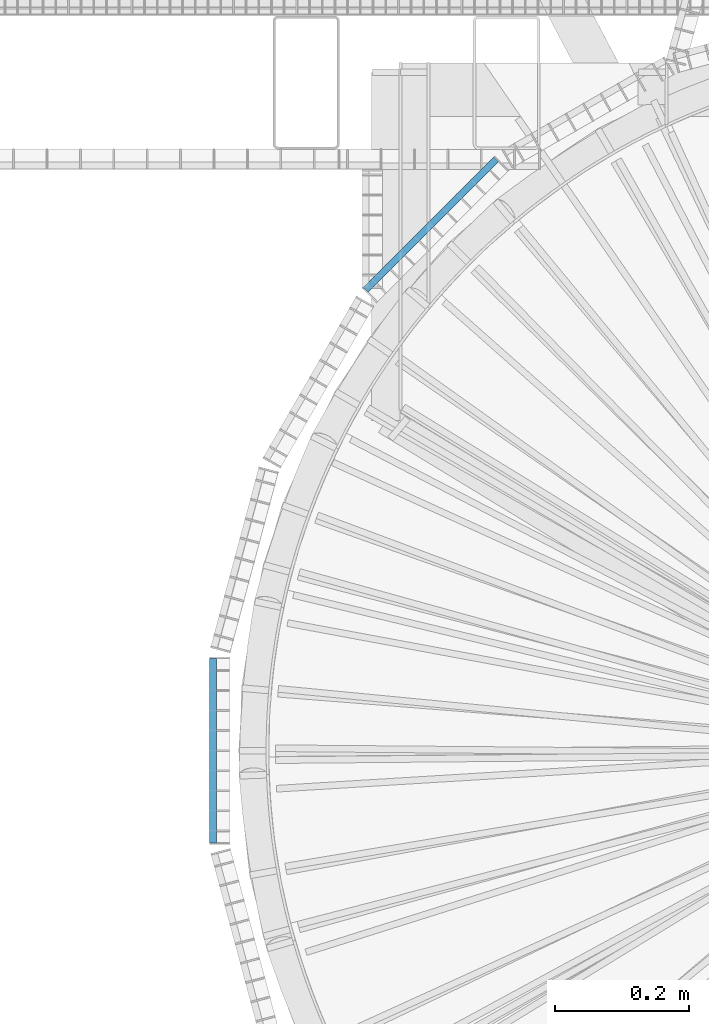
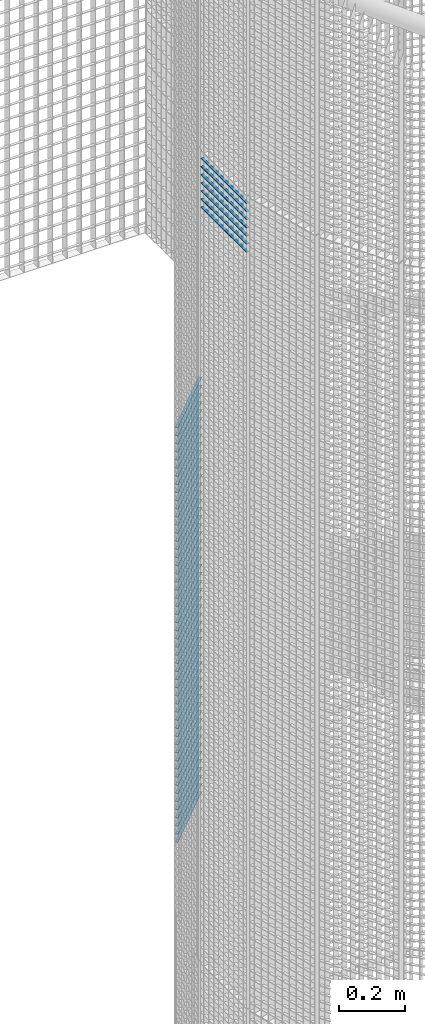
# One storey, part 210 of 1183: 59 beams, 2 elements without a shape of their own.
"""IFC2X3 building model written with IfcOpenShell, lengths in millimetres."""

import ifcopenshell
import ifcopenshell.guid

model = None  # the IFC model being written
_history = None  # IfcOwnerHistory: only IFC2X3 demands one
_inside = {}  # id of a spatial element -> (the spatial element, [elements in it])
_under = {}  # id of a project, library or spatial element -> (it, [spatial elements below it])
_declared = {}  # id of a project -> (the project, [libraries it declares])
_typed = {}  # id of a type object -> (the type object, [elements of that type])
_made_of = {}  # id of a material, layer set ... -> (it, [elements and type objects made of it])


def new_model(schema):
    """Start an empty IFC model of exactly this schema.

    Asked for "IFC4X3", IfcOpenShell would pick the latest addendum, in which some entities
    have other attributes; the version numbers below select the first issue.
    IFC2X3 requires an IfcOwnerHistory on every rooted entity: one is made here for all.
    """
    global model, _history
    if schema == "IFC4X3":
        model = ifcopenshell.file(schema_version=(4, 3, 0, 0))
    else:
        model = ifcopenshell.file(schema=schema)
    _inside.clear()
    _under.clear()
    _declared.clear()
    _typed.clear()
    _made_of.clear()
    _history = None
    if model.schema == "IFC2X3":
        org = make("IfcOrganization", Name="unknown")
        user = make(
            "IfcPersonAndOrganization",
            ThePerson=make("IfcPerson", FamilyName="unknown"),
            TheOrganization=org,
        )
        app = make(
            "IfcApplication",
            ApplicationDeveloper=org,
            Version="unknown",
            ApplicationFullName="unknown",
            ApplicationIdentifier="unknown",
        )
        _history = make(
            "IfcOwnerHistory",
            OwningUser=user,
            OwningApplication=app,
            ChangeAction="ADDED",
            CreationDate=0,
        )
    return model


def make(cls, **values):
    """One entity of the class cls with the attributes given. An attribute that is None is left unset."""
    return model.create_entity(
        cls, **{name: value for name, value in values.items() if value is not None}
    )


def rooted(cls, **values):
    """An entity with a GlobalId (a new one), such as an element, a storey or a relation."""
    return make(cls, GlobalId=ifcopenshell.guid.new(), OwnerHistory=_history, **values)


def si_unit(unit_type, name, prefix=None):
    """IfcSIUnit, for example si_unit("LENGTHUNIT", "METRE", prefix="MILLI")."""
    return make("IfcSIUnit", UnitType=unit_type, Prefix=prefix, Name=name)


def assignment(units):
    """IfcUnitAssignment: the units of a project."""
    return None if units is None else make("IfcUnitAssignment", Units=units)


def point(xyz):
    """IfcCartesianPoint."""
    return None if xyz is None else make("IfcCartesianPoint", Coordinates=xyz)


def direction(xyz):
    """IfcDirection."""
    return None if xyz is None else make("IfcDirection", DirectionRatios=xyz)


def frame(location, z_axis=None, x_axis=None):
    """IfcAxis2Placement3D, a coordinate frame: its origin and axes. An axis left out is left unset."""
    return make(
        "IfcAxis2Placement3D",
        Location=point(location),
        Axis=direction(z_axis),
        RefDirection=direction(x_axis),
    )


def frame_2d(location, x_axis=None):
    """IfcAxis2Placement2D, a coordinate frame in the plane: its origin and x axis."""
    return make(
        "IfcAxis2Placement2D", Location=point(location), RefDirection=direction(x_axis)
    )


def origin_with_axes():
    """The frame at (0, 0, 0) with the z axis (0, 0, 1) and the x axis (1, 0, 0) written out."""
    return frame((0.0, 0.0, 0.0), z_axis=(0.0, 0.0, 1.0), x_axis=(1.0, 0.0, 0.0))


def origin_2d_with_axis():
    """The frame at (0, 0) in the plane with the x axis (1, 0) written out."""
    return frame_2d((0.0, 0.0), x_axis=(1.0, 0.0))


def place(relative_to, where):
    """IfcLocalPlacement: puts the frame where relative to a parent placement (None: the world)."""
    return make(
        "IfcLocalPlacement", PlacementRelTo=relative_to, RelativePlacement=where
    )


def context(
    kind, dimensions, precision=None, world=None, true_north=None, identifier=None
):
    """IfcGeometricRepresentationContext, for example the 3D "Model" context."""
    return make(
        "IfcGeometricRepresentationContext",
        ContextIdentifier=identifier,
        ContextType=kind,
        CoordinateSpaceDimension=dimensions,
        Precision=precision,
        WorldCoordinateSystem=world,
        TrueNorth=true_north,
    )


def subcontext(parent, identifier, kind, view, scale=None):
    """IfcGeometricRepresentationSubContext, for example "Body" below "Model"."""
    return make(
        "IfcGeometricRepresentationSubContext",
        ContextIdentifier=identifier,
        ContextType=kind,
        ParentContext=parent,
        TargetScale=scale,
        TargetView=view,
    )


def project(units=None, contexts=None):
    """IfcProject with its units and contexts."""
    return rooted(
        "IfcProject",
        Name="project",
        RepresentationContexts=contexts,
        UnitsInContext=assignment(units),
    )


def spatial(cls, under=None, at=None, **own):
    """A site, building, storey or space (cls), placed at a placement, below another one or the project."""
    s = rooted(cls, ObjectPlacement=at, **own)
    if under is not None:
        _under.setdefault(under.id(), (under, []))[1].append(s)
    return s


def profile(cls, at=None, kind="AREA", **sizes):
    """A parametric profile (cls). Its sizes go by their IFC names, for example OverallWidth=200.0."""
    return make(cls, ProfileType=kind, Position=at, **sizes)


def rectangle(**sizes):
    """IfcRectangleProfileDef."""
    return profile("IfcRectangleProfileDef", **sizes)


def extrude(swept, where, along, depth):
    """IfcExtrudedAreaSolid: the profile swept, set in the frame where, extruded along a direction by depth."""
    return make(
        "IfcExtrudedAreaSolid",
        SweptArea=swept,
        Position=where,
        ExtrudedDirection=direction(along),
        Depth=depth,
    )


def shape(context_of_items, identifier, shape_type, items):
    """IfcShapeRepresentation: the items that make up one representation, for example the "Body"."""
    return make(
        "IfcShapeRepresentation",
        ContextOfItems=context_of_items,
        RepresentationIdentifier=identifier,
        RepresentationType=shape_type,
        Items=items,
    )


def material(Name=None, Category=None):
    """IfcMaterial."""
    return make("IfcMaterial", Name=Name, Category=Category)


def made_of(thing, what):
    """Note that an element or type object is made of a material, layer set ...; save() writes the relation."""
    if what is not None:
        _made_of.setdefault(what.id(), (what, []))[1].append(thing)
    return thing


def type_object(cls, material=None, **own):
    """A type object (cls), such as IfcWallType, which elements share."""
    return made_of(rooted(cls, **own), material)


def element(
    cls,
    number,
    at=None,
    inside=None,
    cuts=None,
    type_object=None,
    material=None,
    context=None,
    identifier="Body",
    shape_type=None,
    held_by="IfcProductDefinitionShape",
    body=None,
    shapes=None,
    **own,
):
    """One element of the class cls, such as IfcWall. Its Tag is "e" and its number.

    at: its placement. inside: the storey or other place that contains it. cuts: it is an
    opening in that element (IfcRelVoidsElement). A single representation is given by context,
    identifier, shape_type and body (its items); several are given by shapes. held_by: the class
    of the entity that holds the representations. save() writes the other relations.
    """
    e = rooted(cls, Tag="e%d" % number, ObjectPlacement=at, **own)
    if body is not None:
        shapes = [shape(context, identifier, shape_type, body)]
    if shapes is not None:
        e.Representation = make(held_by, Representations=shapes)
    if inside is not None:
        _inside.setdefault(inside.id(), (inside, []))[1].append(e)
    if cuts is not None:
        rooted(
            "IfcRelVoidsElement", RelatingBuildingElement=cuts, RelatedOpeningElement=e
        )
    if type_object is not None:
        _typed.setdefault(type_object.id(), (type_object, []))[1].append(e)
    return made_of(e, material)


def aggregate(whole, parts):
    """IfcRelAggregates: a whole, such as a stair, and the parts it consists of."""
    return rooted("IfcRelAggregates", RelatingObject=whole, RelatedObjects=parts)


def save(model, path):
    """Write the relations noted so far, then the file.

    IfcRelAggregates (storeys below a building ...), IfcRelContainedInSpatialStructure (elements
    in a storey), IfcRelDefinesByType, IfcRelAssociatesMaterial and IfcRelDeclares: one each for
    every whole, place, type object, material and project.
    """
    for whole, parts in _under.values():
        aggregate(whole, parts)
    for where, things in _inside.values():
        rooted(
            "IfcRelContainedInSpatialStructure",
            RelatedElements=things,
            RelatingStructure=where,
        )
    for kind, things in _typed.values():
        rooted("IfcRelDefinesByType", RelatedObjects=things, RelatingType=kind)
    for what, things in _made_of.values():
        rooted("IfcRelAssociatesMaterial", RelatedObjects=things, RelatingMaterial=what)
    for by, libraries in _declared.values():
        rooted("IfcRelDeclares", RelatingContext=by, RelatedDefinitions=libraries)
    model.write(path)


model = new_model("IFC2X3")

# Units and contexts
model_context = context("Model", 3, precision=1e-05, world=origin_with_axes())
body_context = subcontext(model_context, "Body", "Model", "MODEL_VIEW")
ifc_project = project(units=[si_unit("LENGTHUNIT", "METRE", prefix="MILLI"), si_unit("AREAUNIT", "SQUARE_METRE"), si_unit("VOLUMEUNIT", "CUBIC_METRE"), si_unit("MASSUNIT", "GRAM", prefix="KILO"), si_unit("TIMEUNIT", "SECOND"), si_unit("PLANEANGLEUNIT", "RADIAN"), si_unit("SOLIDANGLEUNIT", "STERADIAN"), si_unit("THERMODYNAMICTEMPERATUREUNIT", "DEGREE_CELSIUS"), si_unit("LUMINOUSINTENSITYUNIT", "LUMEN")], contexts=[model_context])

# Site, building, storey
site_placement = place(None, origin_with_axes())
site = spatial("IfcSite", under=ifc_project, at=site_placement, Name="Undefined", CompositionType="ELEMENT")
building_placement = place(site_placement, origin_with_axes())
building = spatial("IfcBuilding", under=site, at=building_placement, Name="Undefined", CompositionType="ELEMENT")
storey_placement = place(building_placement, origin_with_axes())
storey = spatial("IfcBuildingStorey", under=building, at=storey_placement, Name="Undefined", CompositionType="ELEMENT", Elevation=0.0)

# Assembly, beams
assembly_1_placement = place(storey_placement, origin_with_axes())
assembly_1 = element("IfcElementAssembly", 1, at=assembly_1_placement, inside=storey, Name="BORDURE", AssemblyPlace="NOTDEFINED", PredefinedType="NOTDEFINED")
ifc_material = material(Name="STEEL/S235JR")
beam_type = type_object("IfcBeamType", Name="PL2*10", PredefinedType="NOTDEFINED")
beam_1_placement = place(assembly_1_placement, frame((-689.771348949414, 884.927168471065, 4560.0), z_axis=(-0.707106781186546, 0.707106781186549, 0.0), x_axis=(-0.70710678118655, -0.707106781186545, 0.0)))
beam_1 = element("IfcBeam", 2, at=beam_1_placement, type_object=beam_type, material=ifc_material, Name="ENTRETOISE", context=body_context, shape_type="SweptSolid", body=[
    extrude(rectangle(XDim=2.0, YDim=10.0, at=origin_2d_with_axis()), frame((275.999999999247, 9.09494701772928e-13, 1.53210777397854e-14), z_axis=(-1.0, 0.0, 0.0), x_axis=(0.0, -1.0, 0.0)), (0.0, 0.0, 1.0), 276.0),
])
beam_2_placement = place(assembly_1_placement, frame((-689.771348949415, 884.927168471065, 4530.0), z_axis=(-0.707106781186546, 0.707106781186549, 0.0), x_axis=(-0.70710678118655, -0.707106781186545, 0.0)))
beam_2 = element("IfcBeam", 3, at=beam_2_placement, type_object=beam_type, material=ifc_material, Name="ENTRETOISE", context=body_context, shape_type="SweptSolid", body=[
    extrude(rectangle(XDim=2.0, YDim=10.0, at=origin_2d_with_axis()), frame((275.999999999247, 9.09494701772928e-13, 1.53210777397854e-14), z_axis=(-1.0, 0.0, 0.0), x_axis=(0.0, -1.0, 0.0)), (0.0, 0.0, 1.0), 276.0),
])
beam_3_placement = place(assembly_1_placement, frame((-689.771348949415, 884.927168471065, 4500.0), z_axis=(-0.707106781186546, 0.707106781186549, 0.0), x_axis=(-0.70710678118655, -0.707106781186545, 0.0)))
beam_3 = element("IfcBeam", 4, at=beam_3_placement, type_object=beam_type, material=ifc_material, Name="ENTRETOISE", context=body_context, shape_type="SweptSolid", body=[
    extrude(rectangle(XDim=2.0, YDim=10.0, at=origin_2d_with_axis()), frame((275.999999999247, 9.09494701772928e-13, 1.53210777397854e-14), z_axis=(-1.0, 0.0, 0.0), x_axis=(0.0, -1.0, 0.0)), (0.0, 0.0, 1.0), 276.0),
])
beam_4_placement = place(assembly_1_placement, frame((-689.771348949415, 884.927168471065, 4470.0), z_axis=(-0.707106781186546, 0.707106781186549, 0.0), x_axis=(-0.70710678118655, -0.707106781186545, 0.0)))
beam_4 = element("IfcBeam", 5, at=beam_4_placement, type_object=beam_type, material=ifc_material, Name="ENTRETOISE", context=body_context, shape_type="SweptSolid", body=[
    extrude(rectangle(XDim=2.0, YDim=10.0, at=origin_2d_with_axis()), frame((275.999999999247, 9.09494701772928e-13, 1.53210777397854e-14), z_axis=(-1.0, 0.0, 0.0), x_axis=(0.0, -1.0, 0.0)), (0.0, 0.0, 1.0), 276.0),
])
beam_5_placement = place(assembly_1_placement, frame((-689.771348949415, 884.927168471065, 4440.0), z_axis=(-0.707106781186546, 0.707106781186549, 0.0), x_axis=(-0.70710678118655, -0.707106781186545, 0.0)))
beam_5 = element("IfcBeam", 6, at=beam_5_placement, type_object=beam_type, material=ifc_material, Name="ENTRETOISE", context=body_context, shape_type="SweptSolid", body=[
    extrude(rectangle(XDim=2.0, YDim=10.0, at=origin_2d_with_axis()), frame((275.999999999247, 9.09494701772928e-13, 1.53210777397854e-14), z_axis=(-1.0, 0.0, 0.0), x_axis=(0.0, -1.0, 0.0)), (0.0, 0.0, 1.0), 276.0),
])
beam_6_placement = place(assembly_1_placement, frame((-689.771348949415, 884.927168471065, 4410.0), z_axis=(-0.707106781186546, 0.707106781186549, 0.0), x_axis=(-0.70710678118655, -0.707106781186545, 0.0)))
beam_6 = element("IfcBeam", 7, at=beam_6_placement, type_object=beam_type, material=ifc_material, Name="ENTRETOISE", context=body_context, shape_type="SweptSolid", body=[
    extrude(rectangle(XDim=2.0, YDim=10.0, at=origin_2d_with_axis()), frame((275.999999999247, 9.09494701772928e-13, 1.53210777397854e-14), z_axis=(-1.0, 0.0, 0.0), x_axis=(0.0, -1.0, 0.0)), (0.0, 0.0, 1.0), 276.0),
])
beam_7_placement = place(assembly_1_placement, frame((-689.771348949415, 884.927168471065, 4380.0), z_axis=(-0.707106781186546, 0.707106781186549, 0.0), x_axis=(-0.70710678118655, -0.707106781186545, 0.0)))
beam_7 = element("IfcBeam", 8, at=beam_7_placement, type_object=beam_type, material=ifc_material, Name="ENTRETOISE", context=body_context, shape_type="SweptSolid", body=[
    extrude(rectangle(XDim=2.0, YDim=10.0, at=origin_2d_with_axis()), frame((275.999999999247, 9.09494701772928e-13, 1.53210777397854e-14), z_axis=(-1.0, 0.0, 0.0), x_axis=(0.0, -1.0, 0.0)), (0.0, 0.0, 1.0), 276.0),
])
beam_8_placement = place(assembly_1_placement, frame((-689.771348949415, 884.927168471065, 4350.0), z_axis=(-0.707106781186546, 0.707106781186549, 0.0), x_axis=(-0.70710678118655, -0.707106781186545, 0.0)))
beam_8 = element("IfcBeam", 9, at=beam_8_placement, type_object=beam_type, material=ifc_material, Name="ENTRETOISE", context=body_context, shape_type="SweptSolid", body=[
    extrude(rectangle(XDim=2.0, YDim=10.0, at=origin_2d_with_axis()), frame((275.999999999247, 9.09494701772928e-13, 1.53210777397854e-14), z_axis=(-1.0, 0.0, 0.0), x_axis=(0.0, -1.0, 0.0)), (0.0, 0.0, 1.0), 276.0),
])
beam_9_placement = place(assembly_1_placement, frame((-689.771348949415, 884.927168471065, 4320.0), z_axis=(-0.707106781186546, 0.707106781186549, 0.0), x_axis=(-0.70710678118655, -0.707106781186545, 0.0)))
beam_9 = element("IfcBeam", 10, at=beam_9_placement, type_object=beam_type, material=ifc_material, Name="ENTRETOISE", context=body_context, shape_type="SweptSolid", body=[
    extrude(rectangle(XDim=2.0, YDim=10.0, at=origin_2d_with_axis()), frame((275.999999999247, 9.09494701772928e-13, 1.53210777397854e-14), z_axis=(-1.0, 0.0, 0.0), x_axis=(0.0, -1.0, 0.0)), (0.0, 0.0, 1.0), 276.0),
])
beam_10_placement = place(assembly_1_placement, frame((-689.771348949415, 884.927168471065, 4290.0), z_axis=(-0.707106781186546, 0.707106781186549, 0.0), x_axis=(-0.70710678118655, -0.707106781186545, 0.0)))
beam_10 = element("IfcBeam", 11, at=beam_10_placement, type_object=beam_type, material=ifc_material, Name="ENTRETOISE", context=body_context, shape_type="SweptSolid", body=[
    extrude(rectangle(XDim=2.0, YDim=10.0, at=origin_2d_with_axis()), frame((275.999999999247, 9.09494701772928e-13, 1.53210777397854e-14), z_axis=(-1.0, 0.0, 0.0), x_axis=(0.0, -1.0, 0.0)), (0.0, 0.0, 1.0), 276.0),
])
beam_11_placement = place(assembly_1_placement, frame((-689.771348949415, 884.927168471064, 4260.0), z_axis=(-0.707106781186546, 0.707106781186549, 0.0), x_axis=(-0.70710678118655, -0.707106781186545, 0.0)))
beam_11 = element("IfcBeam", 12, at=beam_11_placement, type_object=beam_type, material=ifc_material, Name="ENTRETOISE", context=body_context, shape_type="SweptSolid", body=[
    extrude(rectangle(XDim=2.0, YDim=10.0, at=origin_2d_with_axis()), frame((275.999999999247, 9.09494701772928e-13, 1.53210777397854e-14), z_axis=(-1.0, 0.0, 0.0), x_axis=(0.0, -1.0, 0.0)), (0.0, 0.0, 1.0), 276.0),
])
beam_12_placement = place(assembly_1_placement, frame((-689.771348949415, 884.927168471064, 4230.0), z_axis=(-0.707106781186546, 0.707106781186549, 0.0), x_axis=(-0.70710678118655, -0.707106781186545, 0.0)))
beam_12 = element("IfcBeam", 13, at=beam_12_placement, type_object=beam_type, material=ifc_material, Name="ENTRETOISE", context=body_context, shape_type="SweptSolid", body=[
    extrude(rectangle(XDim=2.0, YDim=10.0, at=origin_2d_with_axis()), frame((275.999999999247, 9.09494701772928e-13, 1.53210777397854e-14), z_axis=(-1.0, 0.0, 0.0), x_axis=(0.0, -1.0, 0.0)), (0.0, 0.0, 1.0), 276.0),
])
beam_13_placement = place(assembly_1_placement, frame((-689.771348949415, 884.927168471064, 4200.0), z_axis=(-0.707106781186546, 0.707106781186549, 0.0), x_axis=(-0.70710678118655, -0.707106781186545, 0.0)))
beam_13 = element("IfcBeam", 14, at=beam_13_placement, type_object=beam_type, material=ifc_material, Name="ENTRETOISE", context=body_context, shape_type="SweptSolid", body=[
    extrude(rectangle(XDim=2.0, YDim=10.0, at=origin_2d_with_axis()), frame((275.999999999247, 9.09494701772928e-13, 1.53210777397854e-14), z_axis=(-1.0, 0.0, 0.0), x_axis=(0.0, -1.0, 0.0)), (0.0, 0.0, 1.0), 276.0),
])
beam_14_placement = place(assembly_1_placement, frame((-689.771348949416, 884.927168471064, 4170.0), z_axis=(-0.707106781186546, 0.707106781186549, 0.0), x_axis=(-0.70710678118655, -0.707106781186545, 0.0)))
beam_14 = element("IfcBeam", 15, at=beam_14_placement, type_object=beam_type, material=ifc_material, Name="ENTRETOISE", context=body_context, shape_type="SweptSolid", body=[
    extrude(rectangle(XDim=2.0, YDim=10.0, at=origin_2d_with_axis()), frame((275.999999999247, 9.09494701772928e-13, 1.53210777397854e-14), z_axis=(-1.0, 0.0, 0.0), x_axis=(0.0, -1.0, 0.0)), (0.0, 0.0, 1.0), 276.0),
])
beam_15_placement = place(assembly_1_placement, frame((-689.771348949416, 884.927168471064, 4140.0), z_axis=(-0.707106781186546, 0.707106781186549, 0.0), x_axis=(-0.70710678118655, -0.707106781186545, 0.0)))
beam_15 = element("IfcBeam", 16, at=beam_15_placement, type_object=beam_type, material=ifc_material, Name="ENTRETOISE", context=body_context, shape_type="SweptSolid", body=[
    extrude(rectangle(XDim=2.0, YDim=10.0, at=origin_2d_with_axis()), frame((275.999999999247, 9.09494701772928e-13, 1.53210777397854e-14), z_axis=(-1.0, 0.0, 0.0), x_axis=(0.0, -1.0, 0.0)), (0.0, 0.0, 1.0), 276.0),
])
beam_16_placement = place(assembly_1_placement, frame((-689.771348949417, 884.927168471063, 3720.0), z_axis=(-0.707106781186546, 0.707106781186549, 0.0), x_axis=(-0.70710678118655, -0.707106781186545, 0.0)))
beam_16 = element("IfcBeam", 17, at=beam_16_placement, type_object=beam_type, material=ifc_material, Name="ENTRETOISE", context=body_context, shape_type="SweptSolid", body=[
    extrude(rectangle(XDim=2.0, YDim=10.0, at=origin_2d_with_axis()), frame((275.999999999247, 9.09494701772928e-13, 1.53210777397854e-14), z_axis=(-1.0, 0.0, 0.0), x_axis=(0.0, -1.0, 0.0)), (0.0, 0.0, 1.0), 276.0),
])
beam_17_placement = place(assembly_1_placement, frame((-689.771348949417, 884.927168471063, 3690.0), z_axis=(-0.707106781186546, 0.707106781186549, 0.0), x_axis=(-0.70710678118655, -0.707106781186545, 0.0)))
beam_17 = element("IfcBeam", 18, at=beam_17_placement, type_object=beam_type, material=ifc_material, Name="ENTRETOISE", context=body_context, shape_type="SweptSolid", body=[
    extrude(rectangle(XDim=2.0, YDim=10.0, at=origin_2d_with_axis()), frame((275.999999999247, 9.09494701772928e-13, 1.53210777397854e-14), z_axis=(-1.0, 0.0, 0.0), x_axis=(0.0, -1.0, 0.0)), (0.0, 0.0, 1.0), 276.0),
])
beam_18_placement = place(assembly_1_placement, frame((-689.771348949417, 884.927168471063, 3750.0), z_axis=(-0.707106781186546, 0.707106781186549, 0.0), x_axis=(-0.70710678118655, -0.707106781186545, 0.0)))
beam_18 = element("IfcBeam", 19, at=beam_18_placement, type_object=beam_type, material=ifc_material, Name="ENTRETOISE", context=body_context, shape_type="SweptSolid", body=[
    extrude(rectangle(XDim=2.0, YDim=10.0, at=origin_2d_with_axis()), frame((275.999999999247, 9.09494701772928e-13, 1.53210777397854e-14), z_axis=(-1.0, 0.0, 0.0), x_axis=(0.0, -1.0, 0.0)), (0.0, 0.0, 1.0), 276.0),
])
beam_19_placement = place(assembly_1_placement, frame((-689.771348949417, 884.927168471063, 3660.0), z_axis=(-0.707106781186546, 0.707106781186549, 0.0), x_axis=(-0.70710678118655, -0.707106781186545, 0.0)))
beam_19 = element("IfcBeam", 20, at=beam_19_placement, type_object=beam_type, material=ifc_material, Name="ENTRETOISE", context=body_context, shape_type="SweptSolid", body=[
    extrude(rectangle(XDim=2.0, YDim=10.0, at=origin_2d_with_axis()), frame((275.999999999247, 9.09494701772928e-13, 1.53210777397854e-14), z_axis=(-1.0, 0.0, 0.0), x_axis=(0.0, -1.0, 0.0)), (0.0, 0.0, 1.0), 276.0),
])
beam_20_placement = place(assembly_1_placement, frame((-689.771348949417, 884.927168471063, 3630.0), z_axis=(-0.707106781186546, 0.707106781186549, 0.0), x_axis=(-0.70710678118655, -0.707106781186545, 0.0)))
beam_20 = element("IfcBeam", 21, at=beam_20_placement, type_object=beam_type, material=ifc_material, Name="ENTRETOISE", context=body_context, shape_type="SweptSolid", body=[
    extrude(rectangle(XDim=2.0, YDim=10.0, at=origin_2d_with_axis()), frame((275.999999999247, 9.09494701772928e-13, 1.53210777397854e-14), z_axis=(-1.0, 0.0, 0.0), x_axis=(0.0, -1.0, 0.0)), (0.0, 0.0, 1.0), 276.0),
])
beam_21_placement = place(assembly_1_placement, frame((-689.771348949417, 884.927168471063, 3780.0), z_axis=(-0.707106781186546, 0.707106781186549, 0.0), x_axis=(-0.70710678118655, -0.707106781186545, 0.0)))
beam_21 = element("IfcBeam", 22, at=beam_21_placement, type_object=beam_type, material=ifc_material, Name="ENTRETOISE", context=body_context, shape_type="SweptSolid", body=[
    extrude(rectangle(XDim=2.0, YDim=10.0, at=origin_2d_with_axis()), frame((275.999999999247, 9.09494701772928e-13, 1.53210777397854e-14), z_axis=(-1.0, 0.0, 0.0), x_axis=(0.0, -1.0, 0.0)), (0.0, 0.0, 1.0), 276.0),
])
beam_22_placement = place(assembly_1_placement, frame((-689.771348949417, 884.927168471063, 3600.0), z_axis=(-0.707106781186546, 0.707106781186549, 0.0), x_axis=(-0.70710678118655, -0.707106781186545, 0.0)))
beam_22 = element("IfcBeam", 23, at=beam_22_placement, type_object=beam_type, material=ifc_material, Name="ENTRETOISE", context=body_context, shape_type="SweptSolid", body=[
    extrude(rectangle(XDim=2.0, YDim=10.0, at=origin_2d_with_axis()), frame((275.999999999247, 9.09494701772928e-13, 1.53210777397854e-14), z_axis=(-1.0, 0.0, 0.0), x_axis=(0.0, -1.0, 0.0)), (0.0, 0.0, 1.0), 276.0),
])
beam_23_placement = place(assembly_1_placement, frame((-689.771348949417, 884.927168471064, 3810.0), z_axis=(-0.707106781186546, 0.707106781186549, 0.0), x_axis=(-0.70710678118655, -0.707106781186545, 0.0)))
beam_23 = element("IfcBeam", 24, at=beam_23_placement, type_object=beam_type, material=ifc_material, Name="ENTRETOISE", context=body_context, shape_type="SweptSolid", body=[
    extrude(rectangle(XDim=2.0, YDim=10.0, at=origin_2d_with_axis()), frame((275.999999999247, 9.09494701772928e-13, 1.53210777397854e-14), z_axis=(-1.0, 0.0, 0.0), x_axis=(0.0, -1.0, 0.0)), (0.0, 0.0, 1.0), 276.0),
])
beam_24_placement = place(assembly_1_placement, frame((-689.771348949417, 884.927168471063, 3570.0), z_axis=(-0.707106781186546, 0.707106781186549, 0.0), x_axis=(-0.70710678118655, -0.707106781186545, 0.0)))
beam_24 = element("IfcBeam", 25, at=beam_24_placement, type_object=beam_type, material=ifc_material, Name="ENTRETOISE", context=body_context, shape_type="SweptSolid", body=[
    extrude(rectangle(XDim=2.0, YDim=10.0, at=origin_2d_with_axis()), frame((275.999999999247, 9.09494701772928e-13, 1.53210777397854e-14), z_axis=(-1.0, 0.0, 0.0), x_axis=(0.0, -1.0, 0.0)), (0.0, 0.0, 1.0), 276.0),
])
beam_25_placement = place(assembly_1_placement, frame((-689.771348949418, 884.927168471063, 3540.0), z_axis=(-0.707106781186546, 0.707106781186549, 0.0), x_axis=(-0.70710678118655, -0.707106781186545, 0.0)))
beam_25 = element("IfcBeam", 26, at=beam_25_placement, type_object=beam_type, material=ifc_material, Name="ENTRETOISE", context=body_context, shape_type="SweptSolid", body=[
    extrude(rectangle(XDim=2.0, YDim=10.0, at=origin_2d_with_axis()), frame((275.999999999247, 9.09494701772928e-13, 1.53210777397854e-14), z_axis=(-1.0, 0.0, 0.0), x_axis=(0.0, -1.0, 0.0)), (0.0, 0.0, 1.0), 276.0),
])
beam_26_placement = place(assembly_1_placement, frame((-689.771348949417, 884.927168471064, 3840.0), z_axis=(-0.707106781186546, 0.707106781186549, 0.0), x_axis=(-0.70710678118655, -0.707106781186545, 0.0)))
beam_26 = element("IfcBeam", 27, at=beam_26_placement, type_object=beam_type, material=ifc_material, Name="ENTRETOISE", context=body_context, shape_type="SweptSolid", body=[
    extrude(rectangle(XDim=2.0, YDim=10.0, at=origin_2d_with_axis()), frame((275.999999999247, 9.09494701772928e-13, 1.53210777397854e-14), z_axis=(-1.0, 0.0, 0.0), x_axis=(0.0, -1.0, 0.0)), (0.0, 0.0, 1.0), 276.0),
])
beam_27_placement = place(assembly_1_placement, frame((-689.771348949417, 884.927168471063, 3510.0), z_axis=(-0.707106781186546, 0.707106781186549, 0.0), x_axis=(-0.70710678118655, -0.707106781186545, 0.0)))
beam_27 = element("IfcBeam", 28, at=beam_27_placement, type_object=beam_type, material=ifc_material, Name="ENTRETOISE", context=body_context, shape_type="SweptSolid", body=[
    extrude(rectangle(XDim=2.0, YDim=10.0, at=origin_2d_with_axis()), frame((275.999999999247, 9.09494701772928e-13, 1.53210777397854e-14), z_axis=(-1.0, 0.0, 0.0), x_axis=(0.0, -1.0, 0.0)), (0.0, 0.0, 1.0), 276.0),
])
beam_28_placement = place(assembly_1_placement, frame((-689.771348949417, 884.927168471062, 3480.0), z_axis=(-0.707106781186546, 0.707106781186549, 0.0), x_axis=(-0.70710678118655, -0.707106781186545, 0.0)))
beam_28 = element("IfcBeam", 29, at=beam_28_placement, type_object=beam_type, material=ifc_material, Name="ENTRETOISE", context=body_context, shape_type="SweptSolid", body=[
    extrude(rectangle(XDim=2.0, YDim=10.0, at=origin_2d_with_axis()), frame((275.999999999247, 9.09494701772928e-13, 1.53210777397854e-14), z_axis=(-1.0, 0.0, 0.0), x_axis=(0.0, -1.0, 0.0)), (0.0, 0.0, 1.0), 276.0),
])
beam_29_placement = place(assembly_1_placement, frame((-689.771348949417, 884.927168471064, 3870.0), z_axis=(-0.707106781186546, 0.707106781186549, 0.0), x_axis=(-0.70710678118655, -0.707106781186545, 0.0)))
beam_29 = element("IfcBeam", 30, at=beam_29_placement, type_object=beam_type, material=ifc_material, Name="ENTRETOISE", context=body_context, shape_type="SweptSolid", body=[
    extrude(rectangle(XDim=2.0, YDim=10.0, at=origin_2d_with_axis()), frame((275.999999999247, 9.09494701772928e-13, 1.53210777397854e-14), z_axis=(-1.0, 0.0, 0.0), x_axis=(0.0, -1.0, 0.0)), (0.0, 0.0, 1.0), 276.0),
])
beam_30_placement = place(assembly_1_placement, frame((-689.771348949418, 884.927168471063, 3450.0), z_axis=(-0.707106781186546, 0.707106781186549, 0.0), x_axis=(-0.70710678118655, -0.707106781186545, 0.0)))
beam_30 = element("IfcBeam", 31, at=beam_30_placement, type_object=beam_type, material=ifc_material, Name="ENTRETOISE", context=body_context, shape_type="SweptSolid", body=[
    extrude(rectangle(XDim=2.0, YDim=10.0, at=origin_2d_with_axis()), frame((275.999999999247, 9.09494701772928e-13, 1.53210777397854e-14), z_axis=(-1.0, 0.0, 0.0), x_axis=(0.0, -1.0, 0.0)), (0.0, 0.0, 1.0), 276.0),
])
beam_31_placement = place(assembly_1_placement, frame((-689.771348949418, 884.927168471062, 3420.0), z_axis=(-0.707106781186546, 0.707106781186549, 0.0), x_axis=(-0.70710678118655, -0.707106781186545, 0.0)))
beam_31 = element("IfcBeam", 32, at=beam_31_placement, type_object=beam_type, material=ifc_material, Name="ENTRETOISE", context=body_context, shape_type="SweptSolid", body=[
    extrude(rectangle(XDim=2.0, YDim=10.0, at=origin_2d_with_axis()), frame((275.999999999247, 9.09494701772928e-13, 1.53210777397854e-14), z_axis=(-1.0, 0.0, 0.0), x_axis=(0.0, -1.0, 0.0)), (0.0, 0.0, 1.0), 276.0),
])
beam_32_placement = place(assembly_1_placement, frame((-689.771348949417, 884.927168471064, 3900.0), z_axis=(-0.707106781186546, 0.707106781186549, 0.0), x_axis=(-0.70710678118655, -0.707106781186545, 0.0)))
beam_32 = element("IfcBeam", 33, at=beam_32_placement, type_object=beam_type, material=ifc_material, Name="ENTRETOISE", context=body_context, shape_type="SweptSolid", body=[
    extrude(rectangle(XDim=2.0, YDim=10.0, at=origin_2d_with_axis()), frame((275.999999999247, 9.09494701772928e-13, 1.53210777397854e-14), z_axis=(-1.0, 0.0, 0.0), x_axis=(0.0, -1.0, 0.0)), (0.0, 0.0, 1.0), 276.0),
])
beam_33_placement = place(assembly_1_placement, frame((-689.771348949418, 884.927168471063, 3390.0), z_axis=(-0.707106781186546, 0.707106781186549, 0.0), x_axis=(-0.70710678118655, -0.707106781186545, 0.0)))
beam_33 = element("IfcBeam", 34, at=beam_33_placement, type_object=beam_type, material=ifc_material, Name="ENTRETOISE", context=body_context, shape_type="SweptSolid", body=[
    extrude(rectangle(XDim=2.0, YDim=10.0, at=origin_2d_with_axis()), frame((275.999999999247, 9.09494701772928e-13, 1.53210777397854e-14), z_axis=(-1.0, 0.0, 0.0), x_axis=(0.0, -1.0, 0.0)), (0.0, 0.0, 1.0), 276.0),
])
beam_34_placement = place(assembly_1_placement, frame((-689.771348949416, 884.927168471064, 3930.0), z_axis=(-0.707106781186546, 0.707106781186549, 0.0), x_axis=(-0.70710678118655, -0.707106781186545, 0.0)))
beam_34 = element("IfcBeam", 35, at=beam_34_placement, type_object=beam_type, material=ifc_material, Name="ENTRETOISE", context=body_context, shape_type="SweptSolid", body=[
    extrude(rectangle(XDim=2.0, YDim=10.0, at=origin_2d_with_axis()), frame((275.999999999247, 9.09494701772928e-13, 1.53210777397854e-14), z_axis=(-1.0, 0.0, 0.0), x_axis=(0.0, -1.0, 0.0)), (0.0, 0.0, 1.0), 276.0),
])
beam_35_placement = place(assembly_1_placement, frame((-689.771348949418, 884.927168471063, 3360.0), z_axis=(-0.707106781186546, 0.707106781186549, 0.0), x_axis=(-0.70710678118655, -0.707106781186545, 0.0)))
beam_35 = element("IfcBeam", 36, at=beam_35_placement, type_object=beam_type, material=ifc_material, Name="ENTRETOISE", context=body_context, shape_type="SweptSolid", body=[
    extrude(rectangle(XDim=2.0, YDim=10.0, at=origin_2d_with_axis()), frame((275.999999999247, 9.09494701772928e-13, 1.53210777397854e-14), z_axis=(-1.0, 0.0, 0.0), x_axis=(0.0, -1.0, 0.0)), (0.0, 0.0, 1.0), 276.0),
])
beam_36_placement = place(assembly_1_placement, frame((-689.771348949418, 884.927168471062, 3330.0), z_axis=(-0.707106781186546, 0.707106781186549, 0.0), x_axis=(-0.70710678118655, -0.707106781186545, 0.0)))
beam_36 = element("IfcBeam", 37, at=beam_36_placement, type_object=beam_type, material=ifc_material, Name="ENTRETOISE", context=body_context, shape_type="SweptSolid", body=[
    extrude(rectangle(XDim=2.0, YDim=10.0, at=origin_2d_with_axis()), frame((275.999999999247, 9.09494701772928e-13, 1.53210777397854e-14), z_axis=(-1.0, 0.0, 0.0), x_axis=(0.0, -1.0, 0.0)), (0.0, 0.0, 1.0), 276.0),
])
beam_37_placement = place(assembly_1_placement, frame((-689.771348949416, 884.927168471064, 3960.0), z_axis=(-0.707106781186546, 0.707106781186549, 0.0), x_axis=(-0.70710678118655, -0.707106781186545, 0.0)))
beam_37 = element("IfcBeam", 38, at=beam_37_placement, type_object=beam_type, material=ifc_material, Name="ENTRETOISE", context=body_context, shape_type="SweptSolid", body=[
    extrude(rectangle(XDim=2.0, YDim=10.0, at=origin_2d_with_axis()), frame((275.999999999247, 9.09494701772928e-13, 1.53210777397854e-14), z_axis=(-1.0, 0.0, 0.0), x_axis=(0.0, -1.0, 0.0)), (0.0, 0.0, 1.0), 276.0),
])
beam_38_placement = place(assembly_1_placement, frame((-689.771348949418, 884.927168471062, 3300.0), z_axis=(-0.707106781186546, 0.707106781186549, 0.0), x_axis=(-0.70710678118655, -0.707106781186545, 0.0)))
beam_38 = element("IfcBeam", 39, at=beam_38_placement, type_object=beam_type, material=ifc_material, Name="ENTRETOISE", context=body_context, shape_type="SweptSolid", body=[
    extrude(rectangle(XDim=2.0, YDim=10.0, at=origin_2d_with_axis()), frame((275.999999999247, 9.09494701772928e-13, 1.53210777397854e-14), z_axis=(-1.0, 0.0, 0.0), x_axis=(0.0, -1.0, 0.0)), (0.0, 0.0, 1.0), 276.0),
])
beam_39_placement = place(assembly_1_placement, frame((-689.771348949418, 884.927168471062, 3270.0), z_axis=(-0.707106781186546, 0.707106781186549, 0.0), x_axis=(-0.70710678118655, -0.707106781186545, 0.0)))
beam_39 = element("IfcBeam", 40, at=beam_39_placement, type_object=beam_type, material=ifc_material, Name="ENTRETOISE", context=body_context, shape_type="SweptSolid", body=[
    extrude(rectangle(XDim=2.0, YDim=10.0, at=origin_2d_with_axis()), frame((275.999999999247, 9.09494701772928e-13, 1.53210777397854e-14), z_axis=(-1.0, 0.0, 0.0), x_axis=(0.0, -1.0, 0.0)), (0.0, 0.0, 1.0), 276.0),
])
beam_40_placement = place(assembly_1_placement, frame((-689.771348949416, 884.927168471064, 3990.0), z_axis=(-0.707106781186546, 0.707106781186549, 0.0), x_axis=(-0.70710678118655, -0.707106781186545, 0.0)))
beam_40 = element("IfcBeam", 41, at=beam_40_placement, type_object=beam_type, material=ifc_material, Name="ENTRETOISE", context=body_context, shape_type="SweptSolid", body=[
    extrude(rectangle(XDim=2.0, YDim=10.0, at=origin_2d_with_axis()), frame((275.999999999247, 9.09494701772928e-13, 1.53210777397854e-14), z_axis=(-1.0, 0.0, 0.0), x_axis=(0.0, -1.0, 0.0)), (0.0, 0.0, 1.0), 276.0),
])
beam_41_placement = place(assembly_1_placement, frame((-689.771348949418, 884.927168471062, 3240.0), z_axis=(-0.707106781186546, 0.707106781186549, 0.0), x_axis=(-0.70710678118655, -0.707106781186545, 0.0)))
beam_41 = element("IfcBeam", 42, at=beam_41_placement, type_object=beam_type, material=ifc_material, Name="ENTRETOISE", context=body_context, shape_type="SweptSolid", body=[
    extrude(rectangle(XDim=2.0, YDim=10.0, at=origin_2d_with_axis()), frame((275.999999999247, 9.09494701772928e-13, 1.53210777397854e-14), z_axis=(-1.0, 0.0, 0.0), x_axis=(0.0, -1.0, 0.0)), (0.0, 0.0, 1.0), 276.0),
])
beam_42_placement = place(assembly_1_placement, frame((-689.771348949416, 884.927168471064, 4020.0), z_axis=(-0.707106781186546, 0.707106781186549, 0.0), x_axis=(-0.70710678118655, -0.707106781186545, 0.0)))
beam_42 = element("IfcBeam", 43, at=beam_42_placement, type_object=beam_type, material=ifc_material, Name="ENTRETOISE", context=body_context, shape_type="SweptSolid", body=[
    extrude(rectangle(XDim=2.0, YDim=10.0, at=origin_2d_with_axis()), frame((275.999999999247, 9.09494701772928e-13, 1.53210777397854e-14), z_axis=(-1.0, 0.0, 0.0), x_axis=(0.0, -1.0, 0.0)), (0.0, 0.0, 1.0), 276.0),
])
beam_43_placement = place(assembly_1_placement, frame((-689.771348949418, 884.927168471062, 3210.0), z_axis=(-0.707106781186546, 0.707106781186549, 0.0), x_axis=(-0.70710678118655, -0.707106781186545, 0.0)))
beam_43 = element("IfcBeam", 44, at=beam_43_placement, type_object=beam_type, material=ifc_material, Name="ENTRETOISE", context=body_context, shape_type="SweptSolid", body=[
    extrude(rectangle(XDim=2.0, YDim=10.0, at=origin_2d_with_axis()), frame((275.999999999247, 9.09494701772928e-13, 1.53210777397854e-14), z_axis=(-1.0, 0.0, 0.0), x_axis=(0.0, -1.0, 0.0)), (0.0, 0.0, 1.0), 276.0),
])
beam_44_placement = place(assembly_1_placement, frame((-689.771348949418, 884.927168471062, 3180.0), z_axis=(-0.707106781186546, 0.707106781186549, 0.0), x_axis=(-0.70710678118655, -0.707106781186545, 0.0)))
beam_44 = element("IfcBeam", 45, at=beam_44_placement, type_object=beam_type, material=ifc_material, Name="ENTRETOISE", context=body_context, shape_type="SweptSolid", body=[
    extrude(rectangle(XDim=2.0, YDim=10.0, at=origin_2d_with_axis()), frame((275.999999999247, 9.09494701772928e-13, 1.53210777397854e-14), z_axis=(-1.0, 0.0, 0.0), x_axis=(0.0, -1.0, 0.0)), (0.0, 0.0, 1.0), 276.0),
])
beam_45_placement = place(assembly_1_placement, frame((-689.771348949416, 884.927168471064, 4050.0), z_axis=(-0.707106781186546, 0.707106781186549, 0.0), x_axis=(-0.70710678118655, -0.707106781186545, 0.0)))
beam_45 = element("IfcBeam", 46, at=beam_45_placement, type_object=beam_type, material=ifc_material, Name="ENTRETOISE", context=body_context, shape_type="SweptSolid", body=[
    extrude(rectangle(XDim=2.0, YDim=10.0, at=origin_2d_with_axis()), frame((275.999999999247, 9.09494701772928e-13, 1.53210777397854e-14), z_axis=(-1.0, 0.0, 0.0), x_axis=(0.0, -1.0, 0.0)), (0.0, 0.0, 1.0), 276.0),
])
beam_46_placement = place(assembly_1_placement, frame((-689.771348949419, 884.927168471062, 3150.0), z_axis=(-0.707106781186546, 0.707106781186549, 0.0), x_axis=(-0.70710678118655, -0.707106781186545, 0.0)))
beam_46 = element("IfcBeam", 47, at=beam_46_placement, type_object=beam_type, material=ifc_material, Name="ENTRETOISE", context=body_context, shape_type="SweptSolid", body=[
    extrude(rectangle(XDim=2.0, YDim=10.0, at=origin_2d_with_axis()), frame((275.999999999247, 9.09494701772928e-13, 1.53210777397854e-14), z_axis=(-1.0, 0.0, 0.0), x_axis=(0.0, -1.0, 0.0)), (0.0, 0.0, 1.0), 276.0),
])
beam_47_placement = place(assembly_1_placement, frame((-689.771348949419, 884.927168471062, 3120.0), z_axis=(-0.707106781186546, 0.707106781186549, 0.0), x_axis=(-0.70710678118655, -0.707106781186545, 0.0)))
beam_47 = element("IfcBeam", 48, at=beam_47_placement, type_object=beam_type, material=ifc_material, Name="ENTRETOISE", context=body_context, shape_type="SweptSolid", body=[
    extrude(rectangle(XDim=2.0, YDim=10.0, at=origin_2d_with_axis()), frame((275.999999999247, 9.09494701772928e-13, 1.53210777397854e-14), z_axis=(-1.0, 0.0, 0.0), x_axis=(0.0, -1.0, 0.0)), (0.0, 0.0, 1.0), 276.0),
])
beam_48_placement = place(assembly_1_placement, frame((-689.771348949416, 884.927168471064, 4080.0), z_axis=(-0.707106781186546, 0.707106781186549, 0.0), x_axis=(-0.70710678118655, -0.707106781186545, 0.0)))
beam_48 = element("IfcBeam", 49, at=beam_48_placement, type_object=beam_type, material=ifc_material, Name="ENTRETOISE", context=body_context, shape_type="SweptSolid", body=[
    extrude(rectangle(XDim=2.0, YDim=10.0, at=origin_2d_with_axis()), frame((275.999999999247, 9.09494701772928e-13, 1.53210777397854e-14), z_axis=(-1.0, 0.0, 0.0), x_axis=(0.0, -1.0, 0.0)), (0.0, 0.0, 1.0), 276.0),
])
beam_49_placement = place(assembly_1_placement, frame((-689.771348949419, 884.927168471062, 3090.0), z_axis=(-0.707106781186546, 0.707106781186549, 0.0), x_axis=(-0.70710678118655, -0.707106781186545, 0.0)))
beam_49 = element("IfcBeam", 50, at=beam_49_placement, type_object=beam_type, material=ifc_material, Name="ENTRETOISE", context=body_context, shape_type="SweptSolid", body=[
    extrude(rectangle(XDim=2.0, YDim=10.0, at=origin_2d_with_axis()), frame((275.999999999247, 9.09494701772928e-13, 1.53210777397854e-14), z_axis=(-1.0, 0.0, 0.0), x_axis=(0.0, -1.0, 0.0)), (0.0, 0.0, 1.0), 276.0),
])
beam_50_placement = place(assembly_1_placement, frame((-689.771348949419, 884.927168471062, 3060.0), z_axis=(-0.707106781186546, 0.707106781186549, 0.0), x_axis=(-0.70710678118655, -0.707106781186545, 0.0)))
beam_50 = element("IfcBeam", 51, at=beam_50_placement, type_object=beam_type, material=ifc_material, Name="ENTRETOISE", context=body_context, shape_type="SweptSolid", body=[
    extrude(rectangle(XDim=2.0, YDim=10.0, at=origin_2d_with_axis()), frame((275.999999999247, 9.09494701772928e-13, 1.53210777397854e-14), z_axis=(-1.0, 0.0, 0.0), x_axis=(0.0, -1.0, 0.0)), (0.0, 0.0, 1.0), 276.0),
])
beam_51_placement = place(assembly_1_placement, frame((-689.771348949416, 884.927168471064, 4110.0), z_axis=(-0.707106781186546, 0.707106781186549, 0.0), x_axis=(-0.70710678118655, -0.707106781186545, 0.0)))
beam_51 = element("IfcBeam", 52, at=beam_51_placement, type_object=beam_type, material=ifc_material, Name="ENTRETOISE", context=body_context, shape_type="SweptSolid", body=[
    extrude(rectangle(XDim=2.0, YDim=10.0, at=origin_2d_with_axis()), frame((275.999999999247, 9.09494701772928e-13, 1.53210777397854e-14), z_axis=(-1.0, 0.0, 0.0), x_axis=(0.0, -1.0, 0.0)), (0.0, 0.0, 1.0), 276.0),
])
beam_52_placement = place(assembly_1_placement, frame((-689.771348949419, 884.92716847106, 3030.0), z_axis=(-0.707106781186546, 0.707106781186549, 0.0), x_axis=(-0.70710678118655, -0.707106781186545, 0.0)))
beam_52 = element("IfcBeam", 53, at=beam_52_placement, type_object=beam_type, material=ifc_material, Name="ENTRETOISE", context=body_context, shape_type="SweptSolid", body=[
    extrude(rectangle(XDim=2.0, YDim=10.0, at=origin_2d_with_axis()), frame((275.999999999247, 9.09494701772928e-13, 1.53210777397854e-14), z_axis=(-1.0, 0.0, 0.0), x_axis=(0.0, -1.0, 0.0)), (0.0, 0.0, 1.0), 276.0),
])
aggregate(assembly_1, [beam_1, beam_2, beam_3, beam_4, beam_5, beam_6, beam_7, beam_8, beam_9, beam_10, beam_11, beam_12, beam_13, beam_14, beam_15, beam_16, beam_17, beam_18, beam_19, beam_20, beam_21, beam_22, beam_23, beam_24, beam_25, beam_26, beam_27, beam_28, beam_29, beam_30, beam_31, beam_32, beam_33, beam_34, beam_35, beam_36, beam_37, beam_38, beam_39, beam_40, beam_41, beam_42, beam_43, beam_44, beam_45, beam_46, beam_47, beam_48, beam_49, beam_50, beam_51, beam_52])

assembly_2_placement = place(storey_placement, origin_with_axes())
assembly_2 = element("IfcElementAssembly", 54, at=assembly_2_placement, inside=storey, Name="BORDURE", AssemblyPlace="NOTDEFINED", PredefinedType="NOTDEFINED")
beam_53_placement = place(assembly_2_placement, frame((-1113.47999999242, 137.996003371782, 5970.0), z_axis=(-1.0, 0.0, 0.0), x_axis=(0.0, -1.0, 0.0)))
beam_53 = element("IfcBeam", 55, at=beam_53_placement, type_object=beam_type, material=ifc_material, Name="ENTRETOISE", context=body_context, shape_type="SweptSolid", body=[
    extrude(rectangle(XDim=2.0, YDim=10.0, at=origin_2d_with_axis()), frame((275.999999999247, 9.09494701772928e-13, 1.53210777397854e-14), z_axis=(-1.0, 0.0, 0.0), x_axis=(0.0, -1.0, 0.0)), (0.0, 0.0, 1.0), 276.0),
])
beam_54_placement = place(assembly_2_placement, frame((-1113.47999999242, 137.996003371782, 5940.0), z_axis=(-1.0, 0.0, 0.0), x_axis=(0.0, -1.0, 0.0)))
beam_54 = element("IfcBeam", 56, at=beam_54_placement, type_object=beam_type, material=ifc_material, Name="ENTRETOISE", context=body_context, shape_type="SweptSolid", body=[
    extrude(rectangle(XDim=2.0, YDim=10.0, at=origin_2d_with_axis()), frame((275.999999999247, 9.09494701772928e-13, 1.53210777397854e-14), z_axis=(-1.0, 0.0, 0.0), x_axis=(0.0, -1.0, 0.0)), (0.0, 0.0, 1.0), 276.0),
])
beam_55_placement = place(assembly_2_placement, frame((-1113.47999999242, 137.996003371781, 5910.0), z_axis=(-1.0, 0.0, 0.0), x_axis=(0.0, -1.0, 0.0)))
beam_55 = element("IfcBeam", 57, at=beam_55_placement, type_object=beam_type, material=ifc_material, Name="ENTRETOISE", context=body_context, shape_type="SweptSolid", body=[
    extrude(rectangle(XDim=2.0, YDim=10.0, at=origin_2d_with_axis()), frame((275.999999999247, 9.09494701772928e-13, 1.53210777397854e-14), z_axis=(-1.0, 0.0, 0.0), x_axis=(0.0, -1.0, 0.0)), (0.0, 0.0, 1.0), 276.0),
])
beam_56_placement = place(assembly_2_placement, frame((-1113.47999999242, 137.996003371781, 5880.0), z_axis=(-1.0, 0.0, 0.0), x_axis=(0.0, -1.0, 0.0)))
beam_56 = element("IfcBeam", 58, at=beam_56_placement, type_object=beam_type, material=ifc_material, Name="ENTRETOISE", context=body_context, shape_type="SweptSolid", body=[
    extrude(rectangle(XDim=2.0, YDim=10.0, at=origin_2d_with_axis()), frame((275.999999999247, 9.09494701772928e-13, 1.53210777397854e-14), z_axis=(-1.0, 0.0, 0.0), x_axis=(0.0, -1.0, 0.0)), (0.0, 0.0, 1.0), 276.0),
])
beam_57_placement = place(assembly_2_placement, frame((-1113.47999999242, 137.996003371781, 5850.0), z_axis=(-1.0, 0.0, 0.0), x_axis=(0.0, -1.0, 0.0)))
beam_57 = element("IfcBeam", 59, at=beam_57_placement, type_object=beam_type, material=ifc_material, Name="ENTRETOISE", context=body_context, shape_type="SweptSolid", body=[
    extrude(rectangle(XDim=2.0, YDim=10.0, at=origin_2d_with_axis()), frame((275.999999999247, 9.09494701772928e-13, 1.53210777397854e-14), z_axis=(-1.0, 0.0, 0.0), x_axis=(0.0, -1.0, 0.0)), (0.0, 0.0, 1.0), 276.0),
])
beam_58_placement = place(assembly_2_placement, frame((-1113.47999999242, 137.996003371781, 5820.0), z_axis=(-1.0, 0.0, 0.0), x_axis=(0.0, -1.0, 0.0)))
beam_58 = element("IfcBeam", 60, at=beam_58_placement, type_object=beam_type, material=ifc_material, Name="ENTRETOISE", context=body_context, shape_type="SweptSolid", body=[
    extrude(rectangle(XDim=2.0, YDim=10.0, at=origin_2d_with_axis()), frame((275.999999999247, 9.09494701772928e-13, 1.53210777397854e-14), z_axis=(-1.0, 0.0, 0.0), x_axis=(0.0, -1.0, 0.0)), (0.0, 0.0, 1.0), 276.0),
])
beam_59_placement = place(assembly_2_placement, frame((-1113.47999999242, 137.996003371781, 5790.0), z_axis=(-1.0, 0.0, 0.0), x_axis=(0.0, -1.0, 0.0)))
beam_59 = element("IfcBeam", 61, at=beam_59_placement, type_object=beam_type, material=ifc_material, Name="ENTRETOISE", context=body_context, shape_type="SweptSolid", body=[
    extrude(rectangle(XDim=2.0, YDim=10.0, at=origin_2d_with_axis()), frame((275.999999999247, 9.09494701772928e-13, 1.53210777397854e-14), z_axis=(-1.0, 0.0, 0.0), x_axis=(0.0, -1.0, 0.0)), (0.0, 0.0, 1.0), 276.0),
])
aggregate(assembly_2, [beam_53, beam_54, beam_55, beam_56, beam_57, beam_58, beam_59])

save(model, "model.ifc")
